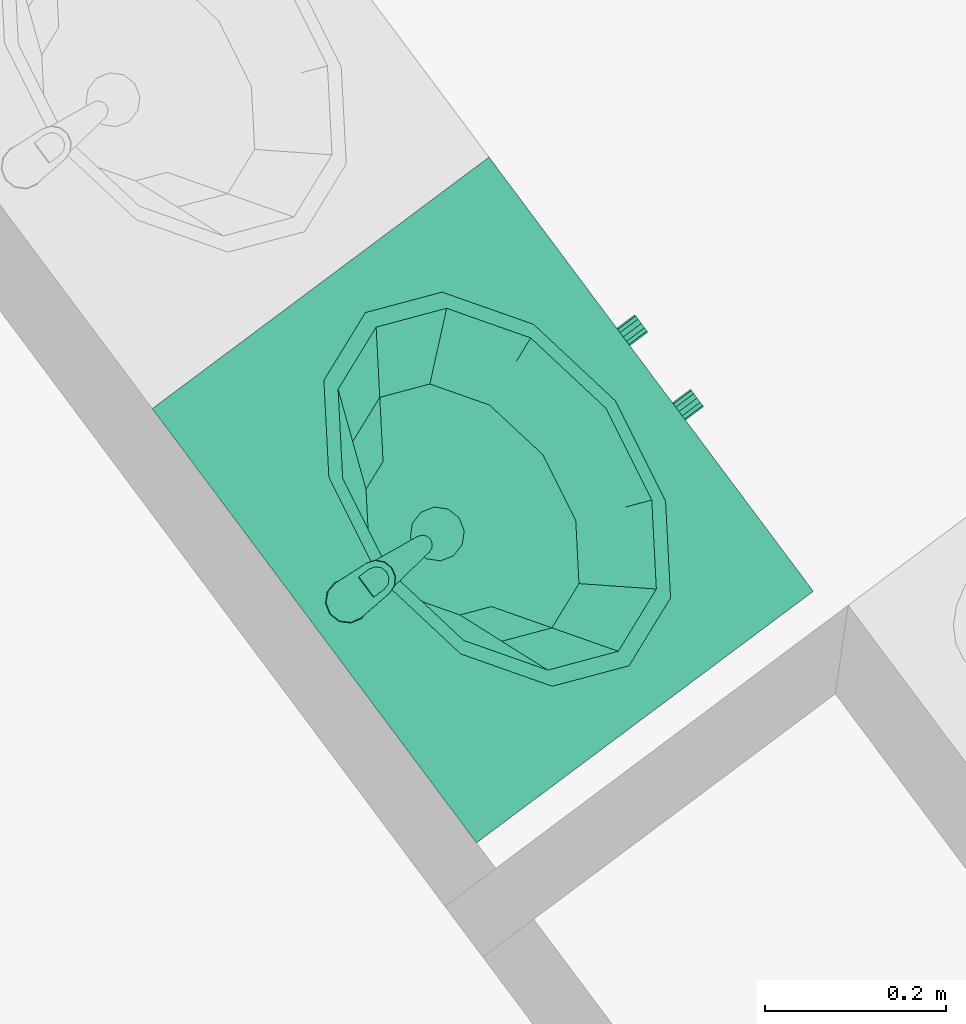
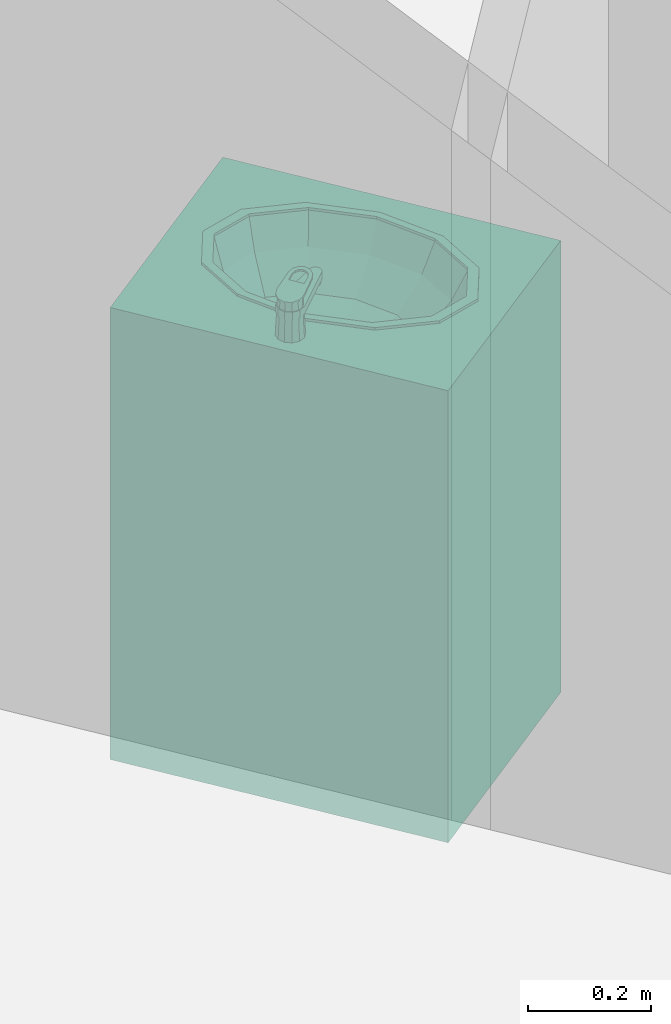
# One storey, part 131 of 195: 1 distribution element.
"""IFC2X3 building model written with IfcOpenShell, lengths in metres."""

from ifc_helpers import new_model, entity, si_unit, converted_unit, derived_unit, money_unit, direction, frame, origin_with_axes, place, context, subcontext, project, spatial, open_shell, faceted_brep, surface_model, source, transform, mapped, type_object, element, save


model = new_model("IFC2X3")

# Units and contexts
model_context = context("Model", 3, precision=1e-05, world=origin_with_axes(), true_north=direction((0.0, 1.0)))
body_context = subcontext(model_context, "Body", "Model", "MODEL_VIEW")
ifc_project = project(units=[si_unit("LENGTHUNIT", "METRE"), si_unit("AREAUNIT", "SQUARE_METRE"), si_unit("VOLUMEUNIT", "CUBIC_METRE"), converted_unit("PLANEANGLEUNIT", "DEGREE", entity("IfcPlaneAngleMeasure", 0.0174532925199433), si_unit("PLANEANGLEUNIT", "RADIAN"), dimensions=[0, 0, 0, 0, 0, 0, 0]), money_unit("CHF"), converted_unit("TIMEUNIT", "Year", entity("IfcTimeMeasure", 31557600.0), si_unit("TIMEUNIT", "SECOND"), dimensions=[0, 0, 1, 0, 0, 0, 0]), si_unit("MASSUNIT", "GRAM", prefix="KILO"), si_unit("THERMODYNAMICTEMPERATUREUNIT", "DEGREE_CELSIUS"), si_unit("LUMINOUSINTENSITYUNIT", "LUMEN"), si_unit("ENERGYUNIT", "JOULE", prefix="MEGA"), derived_unit("THERMALCONDUCTANCEUNIT", [(si_unit("POWERUNIT", "WATT"), 1), (si_unit("LENGTHUNIT", "METRE"), -1), (si_unit("THERMODYNAMICTEMPERATUREUNIT", "KELVIN"), -1)]), derived_unit("SPECIFICHEATCAPACITYUNIT", [(si_unit("ENERGYUNIT", "JOULE"), 1), (si_unit("MASSUNIT", "GRAM", prefix="KILO"), -1), (si_unit("THERMODYNAMICTEMPERATUREUNIT", "KELVIN"), -1)]), derived_unit("MASSDENSITYUNIT", [(si_unit("MASSUNIT", "GRAM", prefix="KILO"), 1), (si_unit("VOLUMEUNIT", "CUBIC_METRE"), -1)])], contexts=[model_context])

# Site, building, storey
site_placement = place(None, origin_with_axes())
site = spatial("IfcSite", under=ifc_project, at=site_placement, Name="Site", CompositionType="ELEMENT")
building_placement = place(site_placement, origin_with_axes())
building = spatial("IfcBuilding", under=site, at=building_placement, Name="Bâtiment", CompositionType="ELEMENT")
storey_placement = place(building_placement, origin_with_axes())
storey = spatial("IfcBuildingStorey", under=building, at=storey_placement, Name="rdc", CompositionType="ELEMENT", Elevation=0.0)

# Distribution element
distribution_element_type = type_object("IfcDistributionElementType", Name="Lavabo sur meuble 27")
shared_shape = source(origin_with_axes(), body_context, "Body", "SurfaceModel", [
    faceted_brep([(0.0, 0.0, 0.0), (0.0, 0.0, 0.1), (-0.6, 0.0, 0.1), (-0.6, 0.0, 0.0), (0.0, 0.4653441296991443, 0.0), (0.0, 0.4653441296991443, 0.1), (-0.6, 0.4653441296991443, 0.1), (-0.6, 0.4653441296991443, 0.0)], [[[0, 1, 2, 3]], [[4, 5, 1, 0]], [[1, 5, 6, 2]], [[3, 2, 6, 7]], [[0, 3, 7, 4]], [[7, 6, 5, 4]]]),
    faceted_brep([(0.0, 0.0, 0.1), (0.0, 0.0, 0.12), (-0.02, 0.0, 0.12), (-0.02, 0.0, 0.1), (0.0, 0.4653441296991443, 0.1), (0.0, 0.4653441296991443, 0.12), (-0.02, 0.4653441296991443, 0.12), (-0.58, 0.4653441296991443, 0.12), (-0.6, 0.4653441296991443, 0.12), (-0.6, 0.0, 0.12), (-0.58, 0.0, 0.12), (-0.58, 0.0, 0.1), (-0.6, 0.0, 0.1), (-0.6, 0.4653441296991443, 0.1), (-0.58, 0.4653441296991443, 0.1), (-0.02, 0.4653441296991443, 0.1)], [[[0, 1, 2, 3]], [[4, 5, 1, 0]], [[1, 5, 6, 7, 8, 9, 10, 2]], [[3, 2, 10, 11]], [[0, 3, 11, 12, 13, 14, 15, 4]], [[15, 6, 5, 4]], [[14, 7, 6, 15]], [[13, 8, 7, 14]], [[12, 9, 8, 13]], [[11, 10, 9, 12]]]),
    faceted_brep([(0.0, 0.0, 0.12), (0.0, 0.0, 0.85), (-0.02, 0.0, 0.85), (-0.02, 0.0, 0.12), (0.0, 0.4653441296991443, 0.12), (0.0, 0.4653441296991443, 0.85), (-0.6, 0.4653441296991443, 0.85), (-0.6, 0.0, 0.85), (-0.58, 0.0, 0.85), (-0.58, 0.4453441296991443, 0.85), (-0.02, 0.4453441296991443, 0.85), (-0.02, 0.4453441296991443, 0.12), (-0.58, 0.4453441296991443, 0.12), (-0.58, 0.0, 0.12), (-0.6, 0.0, 0.12), (-0.6, 0.4653441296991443, 0.12)], [[[0, 1, 2, 3]], [[4, 5, 1, 0]], [[1, 5, 6, 7, 8, 9, 10, 2]], [[3, 2, 10, 11]], [[0, 3, 11, 12, 13, 14, 15, 4]], [[15, 6, 5, 4]], [[14, 7, 6, 15]], [[13, 8, 7, 14]], [[12, 9, 8, 13]], [[11, 10, 9, 12]]]),
    faceted_brep([(-0.58, 0.0, 0.3233333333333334), (-0.58, 0.0, 0.3433333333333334), (-0.58, 0.4453441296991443, 0.3433333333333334), (-0.58, 0.4453441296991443, 0.3233333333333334), (-0.02, 0.0, 0.3233333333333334), (-0.02, 0.0, 0.3433333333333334), (-0.02, 0.4453441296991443, 0.3433333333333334), (-0.02, 0.4453441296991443, 0.3233333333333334)], [[[0, 1, 2, 3]], [[4, 5, 1, 0]], [[1, 5, 6, 2]], [[3, 2, 6, 7]], [[0, 3, 7, 4]], [[7, 6, 5, 4]]]),
    faceted_brep([(-0.58, 0.0, 0.5666666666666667), (-0.58, 0.0, 0.5866666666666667), (-0.58, 0.4453441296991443, 0.5866666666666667), (-0.58, 0.4453441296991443, 0.5666666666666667), (-0.02, 0.0, 0.5666666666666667), (-0.02, 0.0, 0.5866666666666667), (-0.02, 0.4453441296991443, 0.5866666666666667), (-0.02, 0.4453441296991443, 0.5666666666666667)], [[[0, 1, 2, 3]], [[4, 5, 1, 0]], [[1, 5, 6, 2]], [[3, 2, 6, 7]], [[0, 3, 7, 4]], [[7, 6, 5, 4]]]),
    faceted_brep([(0.0, 0.4653441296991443, 0.85), (0.0, 0.0, 0.85), (-0.6, 0.0, 0.85), (-0.6, 0.4653441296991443, 0.85), (-0.4124999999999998, 0.08276825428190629, 0.85), (-0.3, 0.06267206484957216, 0.85), (-0.1874999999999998, 0.08276825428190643, 0.85), (-0.1051442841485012, 0.1376720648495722, 0.85), (-0.07499999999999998, 0.2126720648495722, 0.85), (-0.1051442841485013, 0.2876720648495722, 0.85), (-0.1875000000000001, 0.342575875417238, 0.85), (-0.3, 0.3626720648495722, 0.85), (-0.4125, 0.3425758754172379, 0.85), (-0.4948557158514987, 0.2876720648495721, 0.85), (-0.525, 0.2126720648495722, 0.85), (-0.4948557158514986, 0.137672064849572, 0.85), (0.0, 0.4653441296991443, 0.9), (0.0, 0.0, 0.9), (-0.6, 0.0, 0.9), (-0.6, 0.4653441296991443, 0.9), (-0.3, 0.06267206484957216, 0.9), (-0.4124999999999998, 0.08276825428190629, 0.9), (-0.1874999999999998, 0.08276825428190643, 0.9), (-0.1051442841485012, 0.1376720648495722, 0.9), (-0.07499999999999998, 0.2126720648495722, 0.9), (-0.1051442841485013, 0.2876720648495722, 0.9), (-0.1875000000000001, 0.342575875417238, 0.9), (-0.3, 0.3626720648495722, 0.9), (-0.4125, 0.3425758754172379, 0.9), (-0.4948557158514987, 0.2876720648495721, 0.9), (-0.525, 0.2126720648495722, 0.9), (-0.4948557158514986, 0.137672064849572, 0.9)], [[[0, 1, 2, 3], [4, 5, 6, 7, 8, 9, 10, 11, 12, 13, 14, 15]], [[1, 0, 16, 17]], [[2, 1, 17, 18]], [[3, 2, 18, 19]], [[0, 3, 19, 16]], [[20, 5, 4, 21]], [[22, 6, 5, 20]], [[23, 7, 6, 22]], [[24, 8, 7, 23]], [[25, 9, 8, 24]], [[26, 10, 9, 25]], [[27, 11, 10, 26]], [[28, 12, 11, 27]], [[29, 13, 12, 28]], [[30, 14, 13, 29]], [[31, 15, 14, 30]], [[21, 4, 15, 31]], [[18, 17, 16, 19], [28, 27, 26, 25, 24, 23, 22, 20, 21, 31, 30, 29]]]),
    faceted_brep([(-0.544, 0.2126720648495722, 0.905), (-0.511310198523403, 0.2943684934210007, 0.905), (-0.511310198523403, 0.2943684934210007, 0.9), (-0.544, 0.2126720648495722, 0.9), (-0.5113101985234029, 0.1309756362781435, 0.905), (-0.4219999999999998, 0.07116969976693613, 0.905), (-0.3, 0.04927920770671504, 0.905), (-0.1779999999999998, 0.07116969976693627, 0.905), (-0.08868980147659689, 0.1309756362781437, 0.905), (-0.05599999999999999, 0.2126720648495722, 0.905), (-0.088689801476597, 0.2943684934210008, 0.905), (-0.178, 0.3541744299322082, 0.905), (-0.3, 0.3760649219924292, 0.905), (-0.422, 0.3541744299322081, 0.905), (-0.524, 0.2126720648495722, 0.905), (-0.4939896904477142, 0.2876720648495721, 0.905), (-0.412, 0.3425758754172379, 0.905), (-0.3, 0.3626720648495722, 0.905), (-0.1880000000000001, 0.342575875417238, 0.905), (-0.1060103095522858, 0.2876720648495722, 0.905), (-0.07599999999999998, 0.2126720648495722, 0.905), (-0.1060103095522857, 0.1376720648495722, 0.905), (-0.1879999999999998, 0.08276825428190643, 0.905), (-0.3, 0.06267206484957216, 0.905), (-0.4119999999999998, 0.08276825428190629, 0.905), (-0.4939896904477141, 0.137672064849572, 0.905), (-0.422, 0.3541744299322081, 0.9), (-0.3, 0.3760649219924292, 0.9), (-0.178, 0.3541744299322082, 0.9), (-0.088689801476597, 0.2943684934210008, 0.9), (-0.05599999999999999, 0.2126720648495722, 0.9), (-0.08868980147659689, 0.1309756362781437, 0.9), (-0.1779999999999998, 0.07116969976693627, 0.9), (-0.3, 0.04927920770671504, 0.9), (-0.4219999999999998, 0.07116969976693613, 0.9), (-0.5113101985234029, 0.1309756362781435, 0.9), (-0.524, 0.2126720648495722, 0.9), (-0.4939896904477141, 0.137672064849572, 0.9), (-0.4119999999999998, 0.08276825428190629, 0.9), (-0.3, 0.06267206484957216, 0.9), (-0.1879999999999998, 0.08276825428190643, 0.9), (-0.1060103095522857, 0.1376720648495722, 0.9), (-0.07599999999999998, 0.2126720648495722, 0.9), (-0.1060103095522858, 0.2876720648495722, 0.9), (-0.1880000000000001, 0.342575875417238, 0.9), (-0.3, 0.3626720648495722, 0.9), (-0.412, 0.3425758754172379, 0.9), (-0.4939896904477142, 0.2876720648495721, 0.9)], [[[0, 1, 2, 3]], [[0, 4, 5, 6, 7, 8, 9, 10, 11, 12, 13, 1], [14, 15, 16, 17, 18, 19, 20, 21, 22, 23, 24, 25]], [[1, 13, 26, 2]], [[3, 2, 26, 27, 28, 29, 30, 31, 32, 33, 34, 35], [36, 37, 38, 39, 40, 41, 42, 43, 44, 45, 46, 47]], [[4, 0, 3, 35]], [[5, 4, 35, 34]], [[6, 5, 34, 33]], [[7, 6, 33, 32]], [[8, 7, 32, 31]], [[9, 8, 31, 30]], [[10, 9, 30, 29]], [[11, 10, 29, 28]], [[12, 11, 28, 27]], [[13, 12, 27, 26]], [[15, 14, 36, 47]], [[16, 15, 47, 46]], [[17, 16, 46, 45]], [[18, 17, 45, 44]], [[19, 18, 44, 43]], [[20, 19, 43, 42]], [[21, 20, 42, 41]], [[22, 21, 41, 40]], [[23, 22, 40, 39]], [[24, 23, 39, 38]], [[25, 24, 38, 37]], [[14, 25, 37, 36]]]),
    surface_model("IfcShellBasedSurfaceModel", [(-0.3, 0.3626720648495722, 0.9), (-0.412, 0.342575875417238, 0.9), (-0.4008, 0.3445854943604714, 0.848), (-0.3, 0.3626720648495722, 0.848), (-0.4939896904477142, 0.2876720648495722, 0.9), (-0.4745907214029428, 0.2951720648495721, 0.848), (-0.1879999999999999, 0.3425758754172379, 0.9), (-0.1991999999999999, 0.3445854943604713, 0.848), (-0.524, 0.2126720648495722, 0.9), (-0.5016, 0.2276720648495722, 0.848), (-0.1060103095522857, 0.2876720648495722, 0.9), (-0.1254092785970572, 0.2951720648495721, 0.848), (-0.4939896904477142, 0.1376720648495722, 0.9), (-0.4745907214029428, 0.1601720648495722, 0.848), (-0.07599999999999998, 0.2126720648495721, 0.9), (-0.09839999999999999, 0.2276720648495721, 0.848), (-0.412, 0.08276825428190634, 0.9), (-0.4008, 0.1107586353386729, 0.848), (-0.1060103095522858, 0.1376720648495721, 0.9), (-0.1254092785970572, 0.1601720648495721, 0.848), (-0.3, 0.06267206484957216, 0.9), (-0.3, 0.09267206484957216, 0.848), (-0.1879999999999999, 0.08276825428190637, 0.9), (-0.1992, 0.110758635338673, 0.848)], [open_shell([[[0, 1, 2, 3]], [[1, 4, 5, 2]], [[6, 0, 3, 7]], [[4, 8, 9, 5]], [[10, 6, 7, 11]], [[8, 12, 13, 9]], [[14, 10, 11, 15]], [[12, 16, 17, 13]], [[18, 14, 15, 19]], [[16, 20, 21, 17]], [[22, 18, 19, 23]], [[20, 22, 23, 21]]])]),
    surface_model("IfcShellBasedSurfaceModel", [(-0.3, 0.3626720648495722, 0.848), (-0.4008, 0.3445854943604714, 0.848), (-0.379632, 0.3483836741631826, 0.7959999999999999), (-0.3, 0.3626720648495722, 0.7959999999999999), (-0.4745907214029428, 0.2951720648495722, 0.848), (-0.4379266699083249, 0.3093470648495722, 0.7959999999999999), (-0.1991999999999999, 0.3445854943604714, 0.848), (-0.2203679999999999, 0.3483836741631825, 0.7959999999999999), (-0.5016, 0.2276720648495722, 0.848), (-0.459264, 0.2560220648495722, 0.7959999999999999), (-0.1254092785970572, 0.2951720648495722, 0.848), (-0.1620733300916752, 0.3093470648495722, 0.7959999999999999), (-0.4745907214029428, 0.1601720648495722, 0.848), (-0.4379266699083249, 0.2026970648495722, 0.7959999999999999), (-0.09839999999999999, 0.2276720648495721, 0.848), (-0.140736, 0.2560220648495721, 0.7959999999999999), (-0.4008, 0.1107586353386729, 0.848), (-0.379632, 0.1636604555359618, 0.7959999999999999), (-0.1254092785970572, 0.1601720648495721, 0.848), (-0.1620733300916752, 0.2026970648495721, 0.7959999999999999), (-0.3, 0.09267206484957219, 0.848), (-0.3, 0.1493720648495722, 0.7959999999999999), (-0.1992, 0.110758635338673, 0.848), (-0.220368, 0.1636604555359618, 0.7959999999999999)], [open_shell([[[0, 1, 2, 3]], [[1, 4, 5, 2]], [[6, 0, 3, 7]], [[4, 8, 9, 5]], [[10, 6, 7, 11]], [[8, 12, 13, 9]], [[14, 10, 11, 15]], [[12, 16, 17, 13]], [[18, 14, 15, 19]], [[16, 20, 21, 17]], [[22, 18, 19, 23]], [[20, 22, 23, 21]]])]),
    surface_model("IfcShellBasedSurfaceModel", [(-0.3, 0.3626720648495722, 0.7959999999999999), (-0.379632, 0.3483836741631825, 0.7959999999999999), (-0.35016816, 0.3536703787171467, 0.7699999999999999), (-0.3, 0.3626720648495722, 0.7699999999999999), (-0.4379266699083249, 0.3093470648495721, 0.7959999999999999), (-0.3868938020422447, 0.3290773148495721, 0.7699999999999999), (-0.2203679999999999, 0.3483836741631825, 0.7959999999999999), (-0.2498318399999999, 0.3536703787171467, 0.7699999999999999), (-0.459264, 0.2560220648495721, 0.7959999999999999), (-0.40033632, 0.2954825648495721, 0.7699999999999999), (-0.1620733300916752, 0.3093470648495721, 0.7959999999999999), (-0.2131061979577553, 0.3290773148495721, 0.7699999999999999), (-0.4379266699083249, 0.2026970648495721, 0.7959999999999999), (-0.3868938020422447, 0.2618878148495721, 0.7699999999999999), (-0.140736, 0.2560220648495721, 0.7959999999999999), (-0.19966368, 0.2954825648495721, 0.7699999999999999), (-0.379632, 0.1636604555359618, 0.7959999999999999), (-0.35016816, 0.2372947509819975, 0.7699999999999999), (-0.1620733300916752, 0.2026970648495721, 0.7959999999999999), (-0.2131061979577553, 0.2618878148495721, 0.7699999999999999), (-0.3, 0.1493720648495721, 0.7959999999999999), (-0.3, 0.2282930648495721, 0.7699999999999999), (-0.220368, 0.1636604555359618, 0.7959999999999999), (-0.24983184, 0.2372947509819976, 0.7699999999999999)], [open_shell([[[0, 1, 2, 3]], [[1, 4, 5, 2]], [[6, 0, 3, 7]], [[4, 8, 9, 5]], [[10, 6, 7, 11]], [[8, 12, 13, 9]], [[14, 10, 11, 15]], [[12, 16, 17, 13]], [[18, 14, 15, 19]], [[16, 20, 21, 17]], [[22, 18, 19, 23]], [[20, 22, 23, 21]]])]),
    surface_model("IfcShellBasedSurfaceModel", [(-0.3, 0.3626720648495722, 0.7699999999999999), (-0.35016816, 0.3536703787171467, 0.7699999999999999), (-0.315, 0.3214633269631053, 0.7629999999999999), (-0.3259807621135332, 0.3104825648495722, 0.7629999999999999), (-0.3, 0.3254825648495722, 0.7629999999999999), (-0.3868938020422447, 0.3290773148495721, 0.7699999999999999), (-0.2498318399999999, 0.3536703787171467, 0.7699999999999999), (-0.33, 0.2954825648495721, 0.7629999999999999), (-0.285, 0.3214633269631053, 0.7629999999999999), (-0.40033632, 0.2954825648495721, 0.7699999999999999), (-0.2131061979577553, 0.3290773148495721, 0.7699999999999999), (-0.3259807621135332, 0.2804825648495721, 0.7629999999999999), (-0.2740192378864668, 0.3104825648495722, 0.7629999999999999), (-0.3868938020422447, 0.2618878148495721, 0.7699999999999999), (-0.19966368, 0.2954825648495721, 0.7699999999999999), (-0.315, 0.269501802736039, 0.7629999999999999), (-0.27, 0.2954825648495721, 0.7629999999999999), (-0.35016816, 0.2372947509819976, 0.7699999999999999), (-0.2131061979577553, 0.2618878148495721, 0.7699999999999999), (-0.3, 0.2654825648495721, 0.7629999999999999), (-0.2740192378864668, 0.2804825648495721, 0.7629999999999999), (-0.3, 0.2282930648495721, 0.7699999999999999), (-0.24983184, 0.2372947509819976, 0.7699999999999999), (-0.285, 0.269501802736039, 0.7629999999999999)], [open_shell([[[0, 1, 2]], [[1, 3, 2]], [[0, 2, 4]], [[1, 5, 3]], [[6, 0, 4]], [[5, 7, 3]], [[6, 4, 8]], [[5, 9, 7]], [[10, 6, 8]], [[9, 11, 7]], [[10, 8, 12]], [[9, 13, 11]], [[14, 10, 12]], [[13, 15, 11]], [[14, 12, 16]], [[13, 17, 15]], [[18, 14, 16]], [[17, 19, 15]], [[18, 16, 20]], [[17, 21, 19]], [[22, 18, 20]], [[21, 23, 19]], [[22, 20, 23]], [[21, 22, 23]]])]),
    surface_model("IfcShellBasedSurfaceModel", [(-0.33, 0.2954825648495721, 0.763), (-0.3259807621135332, 0.3104825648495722, 0.763), (-0.3259807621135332, 0.3104825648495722, 0.758), (-0.33, 0.2954825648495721, 0.758), (-0.315, 0.3214633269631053, 0.763), (-0.315, 0.3214633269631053, 0.758), (-0.3, 0.3254825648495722, 0.758), (-0.285, 0.3214633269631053, 0.758), (-0.2740192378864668, 0.3104825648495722, 0.758), (-0.27, 0.2954825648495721, 0.758), (-0.2740192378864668, 0.2804825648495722, 0.758), (-0.285, 0.269501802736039, 0.758), (-0.3, 0.2654825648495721, 0.758), (-0.3149999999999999, 0.269501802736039, 0.758), (-0.3259807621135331, 0.2804825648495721, 0.758), (-0.3259807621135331, 0.2804825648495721, 0.763), (-0.3, 0.3254825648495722, 0.763), (-0.285, 0.3214633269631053, 0.763), (-0.2740192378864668, 0.3104825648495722, 0.763), (-0.27, 0.2954825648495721, 0.763), (-0.2740192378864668, 0.2804825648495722, 0.763), (-0.285, 0.269501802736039, 0.763), (-0.3, 0.2654825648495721, 0.763), (-0.3149999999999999, 0.269501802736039, 0.763)], [open_shell([[[0, 1, 2, 3]], [[1, 4, 5, 2]], [[3, 2, 5, 6, 7, 8, 9, 10, 11, 12, 13, 14]], [[15, 0, 3, 14]], [[4, 16, 6, 5]], [[16, 17, 7, 6]], [[17, 18, 8, 7]], [[18, 19, 9, 8]], [[19, 20, 10, 9]], [[20, 21, 11, 10]], [[21, 22, 12, 11]], [[22, 23, 13, 12]], [[23, 15, 14, 13]]])]),
    faceted_brep([(-0.3125, 0.4406587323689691, 0.9), (-0.310587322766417, 0.4373458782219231, 0.976507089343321), (-0.3, 0.4402100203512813, 0.9759615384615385), (-0.3, 0.4440080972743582, 0.9), (-0.3216506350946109, 0.4315080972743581, 0.9), (-0.3182735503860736, 0.4295583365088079, 0.9779904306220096), (-0.321, 0.4190080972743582, 0.98), (-0.3181003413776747, 0.4085578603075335, 0.9819905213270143), (-0.3104141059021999, 0.400970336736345, 0.9834357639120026), (-0.3, 0.3982062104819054, 0.9839622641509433), (-0.2895858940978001, 0.400970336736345, 0.9834357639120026), (-0.2818996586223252, 0.4085578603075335, 0.9819905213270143), (-0.279, 0.4190080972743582, 0.98), (-0.2817264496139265, 0.4295583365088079, 0.9779904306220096), (-0.289412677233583, 0.4373458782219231, 0.976507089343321), (-0.2875, 0.4406587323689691, 0.9), (-0.278349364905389, 0.4315080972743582, 0.9), (-0.275, 0.4190080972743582, 0.9), (-0.278349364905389, 0.4065080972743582, 0.9), (-0.2875, 0.3973574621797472, 0.9), (-0.3, 0.3940080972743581, 0.9), (-0.3125, 0.3973574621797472, 0.9), (-0.3216506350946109, 0.4065080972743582, 0.9), (-0.325, 0.4190080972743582, 0.9)], [[[0, 1, 2, 3]], [[4, 5, 1, 0]], [[1, 5, 6, 7, 8, 9, 10, 11, 12, 13, 14, 2]], [[3, 2, 14, 15]], [[0, 3, 15, 16, 17, 18, 19, 20, 21, 22, 23, 4]], [[23, 6, 5, 4]], [[22, 7, 6, 23]], [[21, 8, 7, 22]], [[20, 9, 8, 21]], [[19, 10, 9, 20]], [[18, 11, 10, 19]], [[17, 12, 11, 18]], [[16, 13, 12, 17]], [[15, 14, 13, 16]]]),
    faceted_brep([(-0.309, 0.3160080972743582, 0.935), (-0.309, 0.3160080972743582, 0.9450000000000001), (-0.3077942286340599, 0.3205080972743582, 0.9450000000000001), (-0.3077942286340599, 0.3205080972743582, 0.935), (-0.3077942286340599, 0.3115080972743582, 0.935), (-0.3077942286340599, 0.3115080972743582, 0.9450000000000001), (-0.3045, 0.3082138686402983, 0.9450000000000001), (-0.3, 0.3070080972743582, 0.9450000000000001), (-0.2955, 0.3082138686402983, 0.9450000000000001), (-0.2922057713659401, 0.3115080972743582, 0.9450000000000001), (-0.291, 0.3160080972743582, 0.9450000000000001), (-0.2922057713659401, 0.3205080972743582, 0.9450000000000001), (-0.2955, 0.3238023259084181, 0.9450000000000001), (-0.3, 0.3250080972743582, 0.9450000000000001), (-0.3045, 0.3238023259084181, 0.9450000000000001), (-0.3045, 0.3238023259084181, 0.935), (-0.3, 0.3250080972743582, 0.935), (-0.2955, 0.3238023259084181, 0.935), (-0.2922057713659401, 0.3205080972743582, 0.935), (-0.291, 0.3160080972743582, 0.935), (-0.2922057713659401, 0.3115080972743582, 0.935), (-0.2955, 0.3082138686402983, 0.935), (-0.3, 0.3070080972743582, 0.935), (-0.3045, 0.3082138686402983, 0.935)], [[[0, 1, 2, 3]], [[4, 5, 1, 0]], [[1, 5, 6, 7, 8, 9, 10, 11, 12, 13, 14, 2]], [[3, 2, 14, 15]], [[0, 3, 15, 16, 17, 18, 19, 20, 21, 22, 23, 4]], [[23, 6, 5, 4]], [[22, 7, 6, 23]], [[21, 8, 7, 22]], [[20, 9, 8, 21]], [[19, 10, 9, 20]], [[18, 11, 10, 19]], [[17, 12, 11, 18]], [[16, 13, 12, 17]], [[15, 14, 13, 16]]]),
    faceted_brep([(-0.2871282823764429, 0.439264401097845, 0.9600000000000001), (-0.300000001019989, 0.44300807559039, 0.9600000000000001), (-0.3128717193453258, 0.4392644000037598, 0.9600000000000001), (-0.3217278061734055, 0.4292013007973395, 0.9600000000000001), (-0.3238053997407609, 0.4159581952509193, 0.9600000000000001), (-0.310912, 0.3146197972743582, 0.9600000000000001), (-0.309028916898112, 0.3097249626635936, 0.9600000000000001), (-0.3050933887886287, 0.3062584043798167, 0.9600000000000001), (-0.300000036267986, 0.305008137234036, 0.9600000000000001), (-0.2949066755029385, 0.3062583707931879, 0.9600000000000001), (-0.2909711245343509, 0.3097249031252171, 0.9600000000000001), (-0.2890880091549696, 0.3146197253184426, 0.9600000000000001), (-0.2761946, 0.4159581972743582, 0.9600000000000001), (-0.2782721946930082, 0.4292013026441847, 0.9600000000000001), (-0.311, 0.4380606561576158, 0.9600000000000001), (-0.3, 0.4410080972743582, 0.9600000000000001), (-0.289, 0.4380606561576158, 0.9600000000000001), (-0.2809474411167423, 0.4300080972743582, 0.9600000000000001), (-0.278, 0.4190080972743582, 0.9600000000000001), (-0.2809474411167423, 0.4080080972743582, 0.9600000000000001), (-0.289, 0.3999555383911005, 0.9600000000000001), (-0.3, 0.3970080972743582, 0.9600000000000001), (-0.3109999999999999, 0.3999555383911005, 0.9600000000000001), (-0.3190525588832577, 0.4080080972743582, 0.9600000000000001), (-0.322, 0.4190080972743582, 0.9600000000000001), (-0.3190525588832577, 0.4300080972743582, 0.9600000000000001), (-0.2871282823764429, 0.439264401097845, 0.9450000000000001), (-0.300000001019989, 0.44300807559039, 0.9450000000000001), (-0.3128717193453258, 0.4392644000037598, 0.9450000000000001), (-0.3217278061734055, 0.4292013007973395, 0.9450000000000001), (-0.3238053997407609, 0.4159581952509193, 0.9450000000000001), (-0.310912, 0.3146197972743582, 0.9450000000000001), (-0.309028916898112, 0.3097249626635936, 0.9450000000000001), (-0.3050933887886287, 0.3062584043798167, 0.9450000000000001), (-0.300000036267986, 0.305008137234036, 0.9450000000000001), (-0.2949066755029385, 0.3062583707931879, 0.9450000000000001), (-0.2909711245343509, 0.3097249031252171, 0.9450000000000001), (-0.2890880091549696, 0.3146197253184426, 0.9450000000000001), (-0.2761946, 0.4159581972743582, 0.9450000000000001), (-0.2782721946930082, 0.4292013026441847, 0.9450000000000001), (-0.3, 0.4417580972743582, 0.9450000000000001), (-0.311375, 0.4387101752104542, 0.9450000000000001), (-0.288625, 0.4387101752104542, 0.9450000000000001), (-0.280297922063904, 0.4303830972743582, 0.9450000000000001), (-0.2772499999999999, 0.4190080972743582, 0.9450000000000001), (-0.280297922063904, 0.4076330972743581, 0.9450000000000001), (-0.288625, 0.3993060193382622, 0.9450000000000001), (-0.3, 0.3962580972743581, 0.9450000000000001), (-0.311375, 0.3993060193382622, 0.9450000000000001), (-0.319702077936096, 0.4076330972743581, 0.9450000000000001), (-0.32275, 0.4190080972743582, 0.9450000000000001), (-0.319702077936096, 0.4303830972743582, 0.9450000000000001)], [[[0, 1, 2, 3, 4, 5, 6, 7, 8, 9, 10, 11, 12, 13], [14, 15, 16, 17, 18, 19, 20, 21, 22, 23, 24, 25]], [[26, 27, 1, 0]], [[27, 28, 2, 1]], [[28, 29, 3, 2]], [[29, 30, 4, 3]], [[30, 31, 5, 4]], [[31, 32, 6, 5]], [[32, 33, 7, 6]], [[33, 34, 8, 7]], [[34, 35, 9, 8]], [[35, 36, 10, 9]], [[36, 37, 11, 10]], [[37, 38, 12, 11]], [[38, 39, 13, 12]], [[39, 26, 0, 13]], [[40, 15, 14, 41]], [[42, 16, 15, 40]], [[16, 42, 43, 17]], [[17, 43, 44, 18]], [[18, 44, 45, 19]], [[19, 45, 46, 20]], [[20, 46, 47, 21]], [[48, 22, 21, 47]], [[49, 23, 22, 48]], [[50, 24, 23, 49]], [[51, 25, 24, 50]], [[41, 14, 25, 51]], [[34, 33, 32, 31, 30, 29, 28, 27, 26, 39, 38, 37, 36, 35], [48, 47, 46, 45, 44, 43, 42, 40, 41, 51, 50, 49]]]),
    faceted_brep([(-0.323893, 0.4173155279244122, 0.9803223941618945), (-0.323893, 0.4180639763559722, 0.9842517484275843), (-0.3212964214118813, 0.4305312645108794, 0.9818770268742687), (-0.3212964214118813, 0.4297828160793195, 0.9779476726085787), (-0.3209459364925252, 0.377171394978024, 0.9879688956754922), (-0.3209459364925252, 0.377919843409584, 0.9918982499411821), (-0.317663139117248, 0.3682421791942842, 0.9937416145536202), (-0.3100614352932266, 0.3612927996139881, 0.995065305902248), (-0.2999995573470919, 0.3587709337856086, 0.9955456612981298), (-0.289937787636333, 0.3612932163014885, 0.9950652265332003), (-0.2823363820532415, 0.3682429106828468, 0.9937414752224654), (-0.279054, 0.3779207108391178, 0.991898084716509), (-0.2761069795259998, 0.4180642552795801, 0.9842516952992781), (-0.2787037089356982, 0.4305315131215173, 0.9818769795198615), (-0.2875283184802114, 0.4398477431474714, 0.9801024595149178), (-0.3000001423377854, 0.4432885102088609, 0.9794470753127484), (-0.3124719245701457, 0.4398475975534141, 0.9801024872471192), (-0.314, 0.3942157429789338, 0.9887942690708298), (-0.286, 0.3942157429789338, 0.9887942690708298), (-0.286, 0.3794001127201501, 0.9916162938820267), (-0.2878756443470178, 0.3725237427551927, 0.9929260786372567), (-0.293, 0.3674898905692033, 0.9938849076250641), (-0.3, 0.3656473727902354, 0.9942358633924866), (-0.307, 0.3674898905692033, 0.9938849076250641), (-0.3121243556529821, 0.3725237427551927, 0.9929260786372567), (-0.314, 0.3794001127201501, 0.9916162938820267), (-0.3124719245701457, 0.4390991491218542, 0.9761731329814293), (-0.3000001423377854, 0.4425400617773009, 0.9755177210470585), (-0.2875283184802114, 0.4390992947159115, 0.976173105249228), (-0.2787037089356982, 0.4297830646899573, 0.9779476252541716), (-0.2761069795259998, 0.4173158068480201, 0.9803223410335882), (-0.279054, 0.3771722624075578, 0.9879687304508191), (-0.2823363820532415, 0.3674944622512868, 0.9898121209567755), (-0.289937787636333, 0.3605447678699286, 0.9911358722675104), (-0.2999995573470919, 0.3580224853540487, 0.9916163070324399), (-0.3100614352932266, 0.3605443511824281, 0.9911359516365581), (-0.317663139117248, 0.3674937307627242, 0.9898122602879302), (-0.314, 0.3934672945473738, 0.9848649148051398), (-0.314, 0.37865166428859, 0.9876869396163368), (-0.3121243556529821, 0.3717752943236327, 0.9889967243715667), (-0.307, 0.3667414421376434, 0.9899555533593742), (-0.3, 0.3648989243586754, 0.9903065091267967), (-0.293, 0.3667414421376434, 0.9899555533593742), (-0.2878756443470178, 0.3717752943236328, 0.9889967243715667), (-0.286, 0.37865166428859, 0.9876869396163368), (-0.286, 0.3934672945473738, 0.9848649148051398)], [[[0, 1, 2, 3]], [[4, 5, 1, 0]], [[1, 5, 6, 7, 8, 9, 10, 11, 12, 13, 14, 15, 16, 2], [17, 18, 19, 20, 21, 22, 23, 24, 25]], [[3, 2, 16, 26]], [[0, 3, 26, 27, 28, 29, 30, 31, 32, 33, 34, 35, 36, 4], [37, 38, 39, 40, 41, 42, 43, 44, 45]], [[36, 6, 5, 4]], [[35, 7, 6, 36]], [[34, 8, 7, 35]], [[33, 9, 8, 34]], [[32, 10, 9, 33]], [[31, 11, 10, 32]], [[30, 12, 11, 31]], [[29, 13, 12, 30]], [[28, 14, 13, 29]], [[27, 15, 14, 28]], [[26, 16, 15, 27]], [[45, 18, 17, 37]], [[44, 19, 18, 45]], [[43, 20, 19, 44]], [[42, 21, 20, 43]], [[41, 22, 21, 42]], [[40, 23, 22, 41]], [[39, 24, 23, 40]], [[38, 25, 24, 39]], [[37, 17, 25, 38]]]),
    surface_model("IfcShellBasedSurfaceModel", [(-0.001500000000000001, 0.0, 0.1015), (-0.2985, 0.0, 0.1015), (-0.2985, 0.0, 0.8485), (-0.001500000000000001, 0.0, 0.8485)], [open_shell([[[0, 1, 2, 3]]])]),
    faceted_brep([(-0.2588923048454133, 0.0, 0.7855), (-0.2605, 0.0, 0.7915), (-0.2588923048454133, 0.0, 0.7975), (-0.2545, 0.0, 0.8018923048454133), (-0.2485, 0.0, 0.8035), (-0.2425, 0.0, 0.8018923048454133), (-0.2381076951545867, 0.0, 0.7975), (-0.2365, 0.0, 0.7915), (-0.2381076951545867, 0.0, 0.7855), (-0.2425, 0.0, 0.7811076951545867), (-0.2485, 0.0, 0.7795), (-0.2545, 0.0, 0.7811076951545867), (-0.2588923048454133, -0.025, 0.7855), (-0.2605, -0.025, 0.7915), (-0.2588923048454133, -0.025, 0.7975), (-0.2545, -0.025, 0.8018923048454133), (-0.2485, -0.025, 0.8035), (-0.2425, -0.025, 0.8018923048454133), (-0.2381076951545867, -0.025, 0.7975), (-0.2365, -0.025, 0.7915), (-0.2381076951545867, -0.025, 0.7855), (-0.2425, -0.025, 0.7811076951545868), (-0.2485, -0.025, 0.7795), (-0.2545, -0.025, 0.7811076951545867)], [[[0, 1, 2, 3, 4, 5, 6, 7, 8, 9, 10, 11]], [[0, 12, 13, 1]], [[1, 13, 14, 2]], [[2, 14, 15, 3]], [[3, 15, 16, 4]], [[4, 16, 17, 5]], [[5, 17, 18, 6]], [[6, 18, 19, 7]], [[7, 19, 20, 8]], [[8, 20, 21, 9]], [[9, 21, 22, 10]], [[10, 22, 23, 11]], [[11, 23, 12, 0]], [[12, 23, 22, 21, 20, 19, 18, 17, 16, 15, 14, 13]]]),
    surface_model("IfcShellBasedSurfaceModel", [(-0.5985, 0.0, 0.1015), (-0.5985, 0.0, 0.8485), (-0.3015000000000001, 0.0, 0.8485), (-0.3015000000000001, 0.0, 0.1015)], [open_shell([[[0, 1, 2, 3]]])]),
    faceted_brep([(-0.3411076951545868, 0.0, 0.7855), (-0.3455, 0.0, 0.7811076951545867), (-0.3515, 0.0, 0.7795), (-0.3575, 0.0, 0.7811076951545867), (-0.3618923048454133, 0.0, 0.7855), (-0.3635, 0.0, 0.7915), (-0.3618923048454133, 0.0, 0.7975), (-0.3575, 0.0, 0.8018923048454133), (-0.3515, 0.0, 0.8035), (-0.3455, 0.0, 0.8018923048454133), (-0.3411076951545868, 0.0, 0.7975), (-0.3395, 0.0, 0.7915), (-0.3411076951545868, -0.025, 0.7855), (-0.3455, -0.025, 0.7811076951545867), (-0.3515, -0.025, 0.7795), (-0.3575, -0.025, 0.7811076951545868), (-0.3618923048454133, -0.025, 0.7855), (-0.3635, -0.025, 0.7915), (-0.3618923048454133, -0.025, 0.7975), (-0.3575, -0.025, 0.8018923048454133), (-0.3515, -0.025, 0.8035), (-0.3455, -0.025, 0.8018923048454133), (-0.3411076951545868, -0.025, 0.7975), (-0.3395, -0.025, 0.7915)], [[[0, 1, 2, 3, 4, 5, 6, 7, 8, 9, 10, 11]], [[1, 0, 12, 13]], [[2, 1, 13, 14]], [[3, 2, 14, 15]], [[4, 3, 15, 16]], [[5, 4, 16, 17]], [[6, 5, 17, 18]], [[7, 6, 18, 19]], [[8, 7, 19, 20]], [[9, 8, 20, 21]], [[10, 9, 21, 22]], [[11, 10, 22, 23]], [[0, 11, 23, 12]], [[12, 23, 22, 21, 20, 19, 18, 17, 16, 15, 14, 13]]]),
])
distribution_element_placement = place(storey_placement, frame((9539.722358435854, -1079.229873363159, 57.59999999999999), z_axis=(0.0, 0.0, 1.0), x_axis=(-0.5984464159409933, 0.8011628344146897, 0.0)))
element("IfcDistributionElement", 1, at=distribution_element_placement, inside=storey, type_object=distribution_element_type, Name="Obj.-004", context=body_context, shape_type="MappedRepresentation", body=[
    mapped(shared_shape, transform((0.0, 0.0, 0.0))),
])

save(model, "model.ifc")
